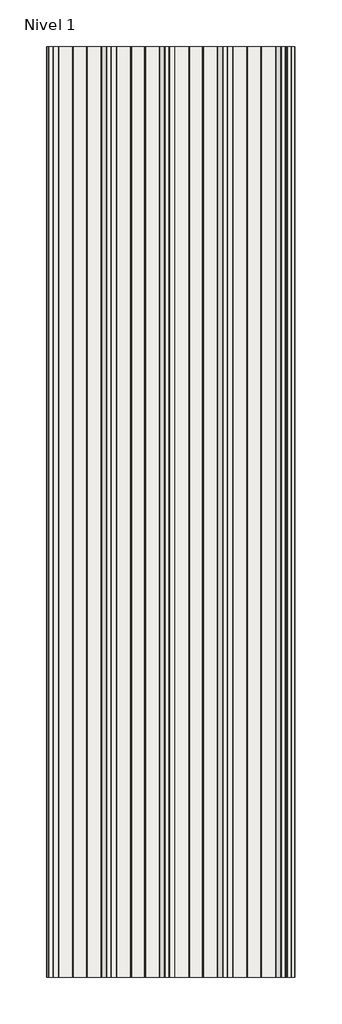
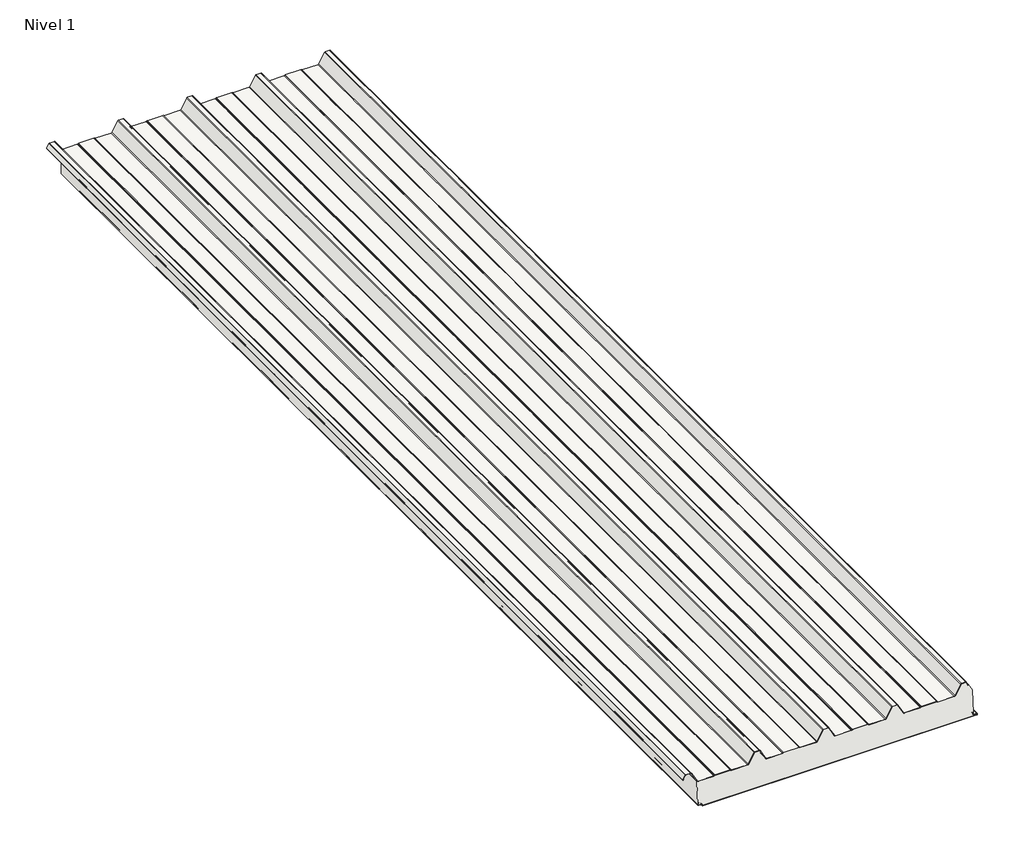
# One storey: 1 slab.
"""IFC4 building model written with IfcOpenShell, lengths in millimetres."""

from ifc_helpers import new_model, si_unit, origin, place, context, project, spatial, transform, mapped, element, save
from components import hi_quadcore_2_0_xt_dual_100_liso_grecada_4c52eda6

model = new_model("IFC4")

# Units and contexts
model_context = context("Model", 3, world=origin())
ifc_project = project(units=[si_unit("LENGTHUNIT", "METRE", prefix="MILLI")], contexts=[model_context])

# Site, building, storey
site = spatial("IfcSite", under=ifc_project)
building = spatial("IfcBuilding", under=site)
storey = spatial("IfcBuildingStorey", under=building, Name="Nivel 1", Elevation=0.0)

# Slab
placement = place(None, origin())
hi_quadcore_2_0_xt_dual_100_liso_grecada_shape = hi_quadcore_2_0_xt_dual_100_liso_grecada_4c52eda6(model_context)
element("IfcSlab", 1, ObjectType="Panel_HI_QuadCore 2.0 XT-XT DUAL_liso-grecada : HI-Quadcore 2.0 XT DUAL 100 liso-grecada", at=placement, inside=storey, context=model_context, shape_type="MappedRepresentation", body=[
    mapped(hi_quadcore_2_0_xt_dual_100_liso_grecada_shape, transform((179.0307103, 435.507424, 0.0), x_axis=(1.0, 0.0, 0.0), y_axis=(0.0, 1.0, 0.0), z_axis=(0.0, 0.0, 1.0))),
])

save(model, "model.ifc")
